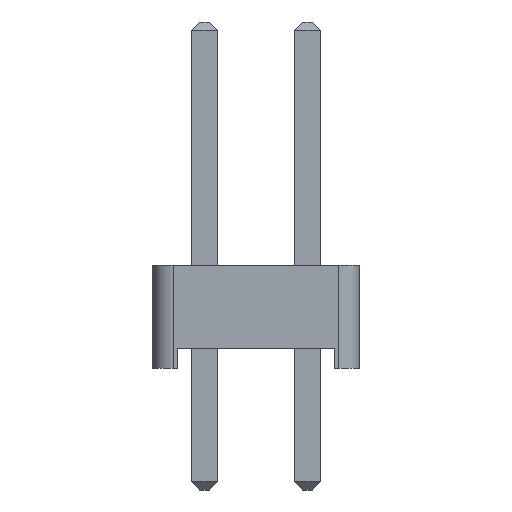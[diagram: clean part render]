
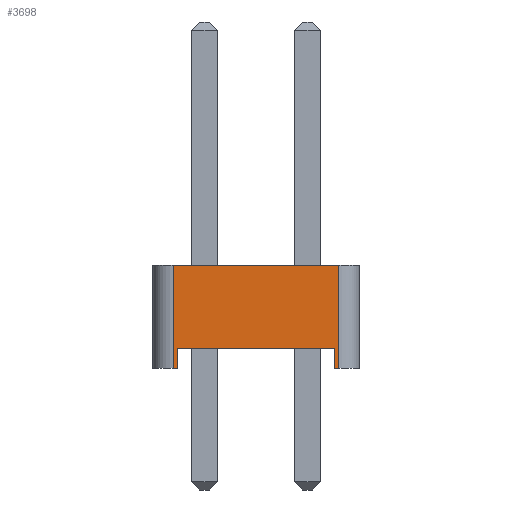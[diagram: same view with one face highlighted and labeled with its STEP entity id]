
A CAD part, left-side view. The second image highlights one B-rep face of the part: STEP entity #3698.
In plain terms, the highlighted planar face has unit normal (-1, 0, 0).
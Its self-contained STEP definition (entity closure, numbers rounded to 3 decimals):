
#3438 = VERTEX_POINT('',#3439);
#3439 = CARTESIAN_POINT('',(-1.27,2.04,0.));
#3447 = PLANE('',#3448);
#3448 = AXIS2_PLACEMENT_3D('',#3449,#3450,#3451);
#3449 = CARTESIAN_POINT('',(0.,0.,0.));
#3450 = DIRECTION('',(-0.,-0.,-1.));
#3451 = DIRECTION('',(-1.,0.,0.));
#3463 = CYLINDRICAL_SURFACE('',#3464,0.5);
#3464 = AXIS2_PLACEMENT_3D('',#3465,#3466,#3467);
#3465 = CARTESIAN_POINT('',(-0.77,2.04,0.));
#3466 = DIRECTION('',(0.,0.,1.));
#3467 = DIRECTION('',(0.,1.,0.));
#3565 = VERTEX_POINT('',#3566);
#3566 = CARTESIAN_POINT('',(-1.27,1.94,0.));
#3580 = PLANE('',#3581);
#3581 = AXIS2_PLACEMENT_3D('',#3582,#3583,#3584);
#3582 = CARTESIAN_POINT('',(1.27,1.94,0.));
#3583 = DIRECTION('',(0.,-1.,0.));
#3584 = DIRECTION('',(-1.,0.,0.));
#3592 = EDGE_CURVE('',#3565,#3438,#3593,.T.);
#3593 = SURFACE_CURVE('',#3594,(#3598,#3605),.PCURVE_S1.);
#3594 = LINE('',#3595,#3596);
#3595 = CARTESIAN_POINT('',(-1.27,-2.54,0.));
#3596 = VECTOR('',#3597,1.);
#3597 = DIRECTION('',(0.,1.,0.));
#3598 = PCURVE('',#3447,#3599);
#3599 = DEFINITIONAL_REPRESENTATION('',(#3600),#3604);
#3600 = LINE('',#3601,#3602);
#3601 = CARTESIAN_POINT('',(1.27,-2.54));
#3602 = VECTOR('',#3603,1.);
#3603 = DIRECTION('',(0.,1.));
#3604 = ( GEOMETRIC_REPRESENTATION_CONTEXT(2) 
PARAMETRIC_REPRESENTATION_CONTEXT() REPRESENTATION_CONTEXT('2D SPACE',''
  ) );
#3605 = PCURVE('',#3606,#3611);
#3606 = PLANE('',#3607);
#3607 = AXIS2_PLACEMENT_3D('',#3608,#3609,#3610);
#3608 = CARTESIAN_POINT('',(-1.27,-2.54,0.));
#3609 = DIRECTION('',(-1.,0.,0.));
#3610 = DIRECTION('',(0.,1.,0.));
#3611 = DEFINITIONAL_REPRESENTATION('',(#3612),#3616);
#3612 = LINE('',#3613,#3614);
#3613 = CARTESIAN_POINT('',(0.,0.));
#3614 = VECTOR('',#3615,1.);
#3615 = DIRECTION('',(1.,0.));
#3616 = ( GEOMETRIC_REPRESENTATION_CONTEXT(2) 
PARAMETRIC_REPRESENTATION_CONTEXT() REPRESENTATION_CONTEXT('2D SPACE',''
  ) );
#3622 = EDGE_CURVE('',#3438,#3623,#3625,.T.);
#3623 = VERTEX_POINT('',#3624);
#3624 = CARTESIAN_POINT('',(-1.27,2.04,2.54));
#3625 = SURFACE_CURVE('',#3626,(#3630,#3637),.PCURVE_S1.);
#3626 = LINE('',#3627,#3628);
#3627 = CARTESIAN_POINT('',(-1.27,2.04,0.));
#3628 = VECTOR('',#3629,1.);
#3629 = DIRECTION('',(0.,0.,1.));
#3630 = PCURVE('',#3463,#3631);
#3631 = DEFINITIONAL_REPRESENTATION('',(#3632),#3636);
#3632 = LINE('',#3633,#3634);
#3633 = CARTESIAN_POINT('',(1.571,0.));
#3634 = VECTOR('',#3635,1.);
#3635 = DIRECTION('',(0.,1.));
#3636 = ( GEOMETRIC_REPRESENTATION_CONTEXT(2) 
PARAMETRIC_REPRESENTATION_CONTEXT() REPRESENTATION_CONTEXT('2D SPACE',''
  ) );
#3637 = PCURVE('',#3606,#3638);
#3638 = DEFINITIONAL_REPRESENTATION('',(#3639),#3643);
#3639 = LINE('',#3640,#3641);
#3640 = CARTESIAN_POINT('',(4.58,0.));
#3641 = VECTOR('',#3642,1.);
#3642 = DIRECTION('',(0.,-1.));
#3643 = ( GEOMETRIC_REPRESENTATION_CONTEXT(2) 
PARAMETRIC_REPRESENTATION_CONTEXT() REPRESENTATION_CONTEXT('2D SPACE',''
  ) );
#3662 = PLANE('',#3663);
#3663 = AXIS2_PLACEMENT_3D('',#3664,#3665,#3666);
#3664 = CARTESIAN_POINT('',(0.,0.,2.54));
#3665 = DIRECTION('',(-0.,-0.,-1.));
#3666 = DIRECTION('',(-1.,0.,0.));
#3698 = ADVANCED_FACE('',(#3699),#3606,.T.);
#3699 = FACE_BOUND('',#3700,.T.);
#3700 = EDGE_LOOP('',(#3701,#3731,#3759,#3780,#3781,#3782,#3805,#3833));
#3701 = ORIENTED_EDGE('',*,*,#3702,.F.);
#3702 = EDGE_CURVE('',#3703,#3705,#3707,.T.);
#3703 = VERTEX_POINT('',#3704);
#3704 = CARTESIAN_POINT('',(-1.27,-2.04,0.));
#3705 = VERTEX_POINT('',#3706);
#3706 = CARTESIAN_POINT('',(-1.27,-1.94,0.));
#3707 = SURFACE_CURVE('',#3708,(#3712,#3719),.PCURVE_S1.);
#3708 = LINE('',#3709,#3710);
#3709 = CARTESIAN_POINT('',(-1.27,-2.54,0.));
#3710 = VECTOR('',#3711,1.);
#3711 = DIRECTION('',(0.,1.,0.));
#3712 = PCURVE('',#3606,#3713);
#3713 = DEFINITIONAL_REPRESENTATION('',(#3714),#3718);
#3714 = LINE('',#3715,#3716);
#3715 = CARTESIAN_POINT('',(0.,0.));
#3716 = VECTOR('',#3717,1.);
#3717 = DIRECTION('',(1.,0.));
#3718 = ( GEOMETRIC_REPRESENTATION_CONTEXT(2) 
PARAMETRIC_REPRESENTATION_CONTEXT() REPRESENTATION_CONTEXT('2D SPACE',''
  ) );
#3719 = PCURVE('',#3720,#3725);
#3720 = PLANE('',#3721);
#3721 = AXIS2_PLACEMENT_3D('',#3722,#3723,#3724);
#3722 = CARTESIAN_POINT('',(0.,0.,0.));
#3723 = DIRECTION('',(-0.,-0.,-1.));
#3724 = DIRECTION('',(-1.,0.,0.));
#3725 = DEFINITIONAL_REPRESENTATION('',(#3726),#3730);
#3726 = LINE('',#3727,#3728);
#3727 = CARTESIAN_POINT('',(1.27,-2.54));
#3728 = VECTOR('',#3729,1.);
#3729 = DIRECTION('',(0.,1.));
#3730 = ( GEOMETRIC_REPRESENTATION_CONTEXT(2) 
PARAMETRIC_REPRESENTATION_CONTEXT() REPRESENTATION_CONTEXT('2D SPACE',''
  ) );
#3731 = ORIENTED_EDGE('',*,*,#3732,.T.);
#3732 = EDGE_CURVE('',#3703,#3733,#3735,.T.);
#3733 = VERTEX_POINT('',#3734);
#3734 = CARTESIAN_POINT('',(-1.27,-2.04,2.54));
#3735 = SURFACE_CURVE('',#3736,(#3740,#3747),.PCURVE_S1.);
#3736 = LINE('',#3737,#3738);
#3737 = CARTESIAN_POINT('',(-1.27,-2.04,0.));
#3738 = VECTOR('',#3739,1.);
#3739 = DIRECTION('',(0.,0.,1.));
#3740 = PCURVE('',#3606,#3741);
#3741 = DEFINITIONAL_REPRESENTATION('',(#3742),#3746);
#3742 = LINE('',#3743,#3744);
#3743 = CARTESIAN_POINT('',(0.5,0.));
#3744 = VECTOR('',#3745,1.);
#3745 = DIRECTION('',(0.,-1.));
#3746 = ( GEOMETRIC_REPRESENTATION_CONTEXT(2) 
PARAMETRIC_REPRESENTATION_CONTEXT() REPRESENTATION_CONTEXT('2D SPACE',''
  ) );
#3747 = PCURVE('',#3748,#3753);
#3748 = CYLINDRICAL_SURFACE('',#3749,0.5);
#3749 = AXIS2_PLACEMENT_3D('',#3750,#3751,#3752);
#3750 = CARTESIAN_POINT('',(-0.77,-2.04,0.));
#3751 = DIRECTION('',(0.,0.,1.));
#3752 = DIRECTION('',(0.,-1.,0.));
#3753 = DEFINITIONAL_REPRESENTATION('',(#3754),#3758);
#3754 = LINE('',#3755,#3756);
#3755 = CARTESIAN_POINT('',(-1.571,0.));
#3756 = VECTOR('',#3757,1.);
#3757 = DIRECTION('',(-0.,1.));
#3758 = ( GEOMETRIC_REPRESENTATION_CONTEXT(2) 
PARAMETRIC_REPRESENTATION_CONTEXT() REPRESENTATION_CONTEXT('2D SPACE',''
  ) );
#3759 = ORIENTED_EDGE('',*,*,#3760,.T.);
#3760 = EDGE_CURVE('',#3733,#3623,#3761,.T.);
#3761 = SURFACE_CURVE('',#3762,(#3766,#3773),.PCURVE_S1.);
#3762 = LINE('',#3763,#3764);
#3763 = CARTESIAN_POINT('',(-1.27,-2.54,2.54));
#3764 = VECTOR('',#3765,1.);
#3765 = DIRECTION('',(0.,1.,0.));
#3766 = PCURVE('',#3606,#3767);
#3767 = DEFINITIONAL_REPRESENTATION('',(#3768),#3772);
#3768 = LINE('',#3769,#3770);
#3769 = CARTESIAN_POINT('',(0.,-2.54));
#3770 = VECTOR('',#3771,1.);
#3771 = DIRECTION('',(1.,0.));
#3772 = ( GEOMETRIC_REPRESENTATION_CONTEXT(2) 
PARAMETRIC_REPRESENTATION_CONTEXT() REPRESENTATION_CONTEXT('2D SPACE',''
  ) );
#3773 = PCURVE('',#3662,#3774);
#3774 = DEFINITIONAL_REPRESENTATION('',(#3775),#3779);
#3775 = LINE('',#3776,#3777);
#3776 = CARTESIAN_POINT('',(1.27,-2.54));
#3777 = VECTOR('',#3778,1.);
#3778 = DIRECTION('',(0.,1.));
#3779 = ( GEOMETRIC_REPRESENTATION_CONTEXT(2) 
PARAMETRIC_REPRESENTATION_CONTEXT() REPRESENTATION_CONTEXT('2D SPACE',''
  ) );
#3780 = ORIENTED_EDGE('',*,*,#3622,.F.);
#3781 = ORIENTED_EDGE('',*,*,#3592,.F.);
#3782 = ORIENTED_EDGE('',*,*,#3783,.T.);
#3783 = EDGE_CURVE('',#3565,#3784,#3786,.T.);
#3784 = VERTEX_POINT('',#3785);
#3785 = CARTESIAN_POINT('',(-1.27,1.94,0.5));
#3786 = SURFACE_CURVE('',#3787,(#3791,#3798),.PCURVE_S1.);
#3787 = LINE('',#3788,#3789);
#3788 = CARTESIAN_POINT('',(-1.27,1.94,0.));
#3789 = VECTOR('',#3790,1.);
#3790 = DIRECTION('',(0.,0.,1.));
#3791 = PCURVE('',#3606,#3792);
#3792 = DEFINITIONAL_REPRESENTATION('',(#3793),#3797);
#3793 = LINE('',#3794,#3795);
#3794 = CARTESIAN_POINT('',(4.48,0.));
#3795 = VECTOR('',#3796,1.);
#3796 = DIRECTION('',(0.,-1.));
#3797 = ( GEOMETRIC_REPRESENTATION_CONTEXT(2) 
PARAMETRIC_REPRESENTATION_CONTEXT() REPRESENTATION_CONTEXT('2D SPACE',''
  ) );
#3798 = PCURVE('',#3580,#3799);
#3799 = DEFINITIONAL_REPRESENTATION('',(#3800),#3804);
#3800 = LINE('',#3801,#3802);
#3801 = CARTESIAN_POINT('',(2.54,0.));
#3802 = VECTOR('',#3803,1.);
#3803 = DIRECTION('',(0.,-1.));
#3804 = ( GEOMETRIC_REPRESENTATION_CONTEXT(2) 
PARAMETRIC_REPRESENTATION_CONTEXT() REPRESENTATION_CONTEXT('2D SPACE',''
  ) );
#3805 = ORIENTED_EDGE('',*,*,#3806,.T.);
#3806 = EDGE_CURVE('',#3784,#3807,#3809,.T.);
#3807 = VERTEX_POINT('',#3808);
#3808 = CARTESIAN_POINT('',(-1.27,-1.94,0.5));
#3809 = SURFACE_CURVE('',#3810,(#3814,#3821),.PCURVE_S1.);
#3810 = LINE('',#3811,#3812);
#3811 = CARTESIAN_POINT('',(-1.27,1.94,0.5));
#3812 = VECTOR('',#3813,1.);
#3813 = DIRECTION('',(0.,-1.,0.));
#3814 = PCURVE('',#3606,#3815);
#3815 = DEFINITIONAL_REPRESENTATION('',(#3816),#3820);
#3816 = LINE('',#3817,#3818);
#3817 = CARTESIAN_POINT('',(4.48,-0.5));
#3818 = VECTOR('',#3819,1.);
#3819 = DIRECTION('',(-1.,0.));
#3820 = ( GEOMETRIC_REPRESENTATION_CONTEXT(2) 
PARAMETRIC_REPRESENTATION_CONTEXT() REPRESENTATION_CONTEXT('2D SPACE',''
  ) );
#3821 = PCURVE('',#3822,#3827);
#3822 = PLANE('',#3823);
#3823 = AXIS2_PLACEMENT_3D('',#3824,#3825,#3826);
#3824 = CARTESIAN_POINT('',(0.,0.,0.5));
#3825 = DIRECTION('',(0.,0.,1.));
#3826 = DIRECTION('',(1.,0.,0.));
#3827 = DEFINITIONAL_REPRESENTATION('',(#3828),#3832);
#3828 = LINE('',#3829,#3830);
#3829 = CARTESIAN_POINT('',(-1.27,1.94));
#3830 = VECTOR('',#3831,1.);
#3831 = DIRECTION('',(0.,-1.));
#3832 = ( GEOMETRIC_REPRESENTATION_CONTEXT(2) 
PARAMETRIC_REPRESENTATION_CONTEXT() REPRESENTATION_CONTEXT('2D SPACE',''
  ) );
#3833 = ORIENTED_EDGE('',*,*,#3834,.F.);
#3834 = EDGE_CURVE('',#3705,#3807,#3835,.T.);
#3835 = SURFACE_CURVE('',#3836,(#3840,#3847),.PCURVE_S1.);
#3836 = LINE('',#3837,#3838);
#3837 = CARTESIAN_POINT('',(-1.27,-1.94,0.));
#3838 = VECTOR('',#3839,1.);
#3839 = DIRECTION('',(0.,0.,1.));
#3840 = PCURVE('',#3606,#3841);
#3841 = DEFINITIONAL_REPRESENTATION('',(#3842),#3846);
#3842 = LINE('',#3843,#3844);
#3843 = CARTESIAN_POINT('',(0.6,0.));
#3844 = VECTOR('',#3845,1.);
#3845 = DIRECTION('',(0.,-1.));
#3846 = ( GEOMETRIC_REPRESENTATION_CONTEXT(2) 
PARAMETRIC_REPRESENTATION_CONTEXT() REPRESENTATION_CONTEXT('2D SPACE',''
  ) );
#3847 = PCURVE('',#3848,#3853);
#3848 = PLANE('',#3849);
#3849 = AXIS2_PLACEMENT_3D('',#3850,#3851,#3852);
#3850 = CARTESIAN_POINT('',(-1.27,-1.94,0.));
#3851 = DIRECTION('',(0.,1.,0.));
#3852 = DIRECTION('',(1.,0.,0.));
#3853 = DEFINITIONAL_REPRESENTATION('',(#3854),#3858);
#3854 = LINE('',#3855,#3856);
#3855 = CARTESIAN_POINT('',(0.,0.));
#3856 = VECTOR('',#3857,1.);
#3857 = DIRECTION('',(0.,-1.));
#3858 = ( GEOMETRIC_REPRESENTATION_CONTEXT(2) 
PARAMETRIC_REPRESENTATION_CONTEXT() REPRESENTATION_CONTEXT('2D SPACE',''
  ) );
